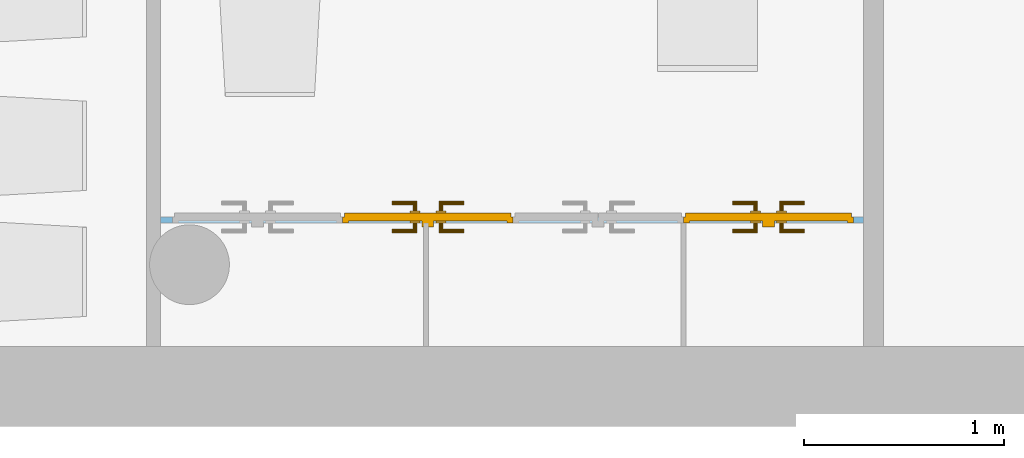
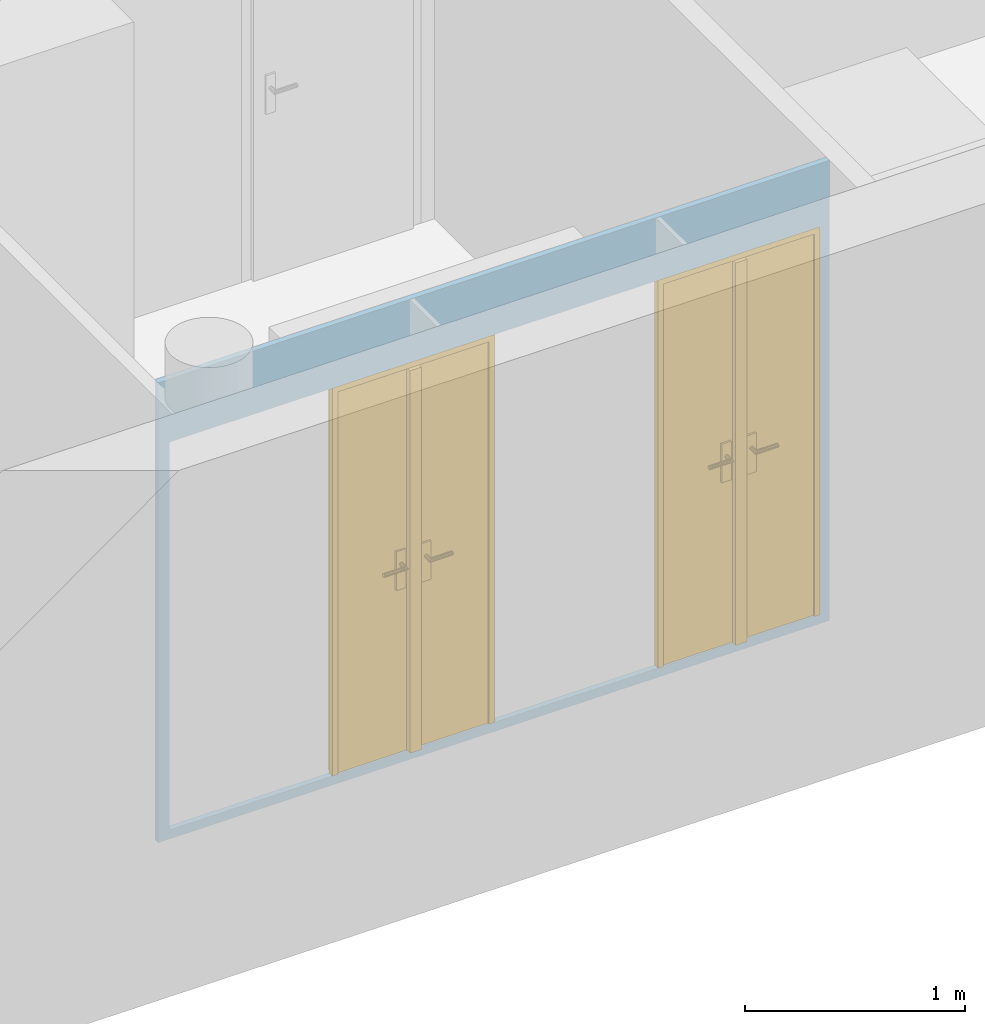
"""IFC4 building model written with IfcOpenShell, lengths in metres."""

import ifcopenshell
import ifcopenshell.guid

model = None  # the IFC model being written
_history = None  # IfcOwnerHistory: only IFC2X3 demands one
_inside = {}  # id of a spatial element -> (the spatial element, [elements in it])
_under = {}  # id of a project, library or spatial element -> (it, [spatial elements below it])
_declared = {}  # id of a project -> (the project, [libraries it declares])
_typed = {}  # id of a type object -> (the type object, [elements of that type])
_made_of = {}  # id of a material, layer set ... -> (it, [elements and type objects made of it])


def new_model(schema):
    """Start an empty IFC model of exactly this schema.

    Asked for "IFC4X3", IfcOpenShell would pick the latest addendum, in which some entities
    have other attributes; the version numbers below select the first issue.
    IFC2X3 requires an IfcOwnerHistory on every rooted entity: one is made here for all.
    """
    global model, _history
    if schema == "IFC4X3":
        model = ifcopenshell.file(schema_version=(4, 3, 0, 0))
    else:
        model = ifcopenshell.file(schema=schema)
    _inside.clear()
    _under.clear()
    _declared.clear()
    _typed.clear()
    _made_of.clear()
    _history = None
    if model.schema == "IFC2X3":
        org = make("IfcOrganization", Name="unknown")
        user = make(
            "IfcPersonAndOrganization",
            ThePerson=make("IfcPerson", FamilyName="unknown"),
            TheOrganization=org,
        )
        app = make(
            "IfcApplication",
            ApplicationDeveloper=org,
            Version="unknown",
            ApplicationFullName="unknown",
            ApplicationIdentifier="unknown",
        )
        _history = make(
            "IfcOwnerHistory",
            OwningUser=user,
            OwningApplication=app,
            ChangeAction="ADDED",
            CreationDate=0,
        )
    return model


def make(cls, **values):
    """One entity of the class cls with the attributes given. An attribute that is None is left unset."""
    return model.create_entity(
        cls, **{name: value for name, value in values.items() if value is not None}
    )


def entity(cls, *values):
    """Any entity or typed value of the class cls, its attributes in the order of the schema. None: left unset."""
    e = model.create_entity(cls)
    for i, value in enumerate(values):
        if value is not None:
            e[i] = value
    return e


def rooted(cls, **values):
    """An entity with a GlobalId (a new one), such as an element, a storey or a relation."""
    return make(cls, GlobalId=ifcopenshell.guid.new(), OwnerHistory=_history, **values)


def si_unit(unit_type, name, prefix=None):
    """IfcSIUnit, for example si_unit("LENGTHUNIT", "METRE", prefix="MILLI")."""
    return make("IfcSIUnit", UnitType=unit_type, Prefix=prefix, Name=name)


def converted_unit(unit_type, name, factor, base, dimensions=None, offset=None):
    """IfcConversionBasedUnit, such as the inch: factor (a typed value) times the base unit."""
    return make(
        "IfcConversionBasedUnit"
        if offset is None
        else "IfcConversionBasedUnitWithOffset",
        ConversionOffset=offset,
        Dimensions=None
        if dimensions is None
        else entity("IfcDimensionalExponents", *dimensions),
        UnitType=unit_type,
        Name=name,
        ConversionFactor=make(
            "IfcMeasureWithUnit", ValueComponent=factor, UnitComponent=base
        ),
    )


def derived_unit(unit_type, elements):
    """IfcDerivedUnit: a product of units, each with its exponent."""
    return make(
        "IfcDerivedUnit",
        Elements=[
            make("IfcDerivedUnitElement", Unit=unit, Exponent=power)
            for unit, power in elements
        ],
        UnitType=unit_type,
    )


def assignment(units):
    """IfcUnitAssignment: the units of a project."""
    return None if units is None else make("IfcUnitAssignment", Units=units)


def point(xyz):
    """IfcCartesianPoint."""
    return None if xyz is None else make("IfcCartesianPoint", Coordinates=xyz)


def direction(xyz):
    """IfcDirection."""
    return None if xyz is None else make("IfcDirection", DirectionRatios=xyz)


def frame(location, z_axis=None, x_axis=None):
    """IfcAxis2Placement3D, a coordinate frame: its origin and axes. An axis left out is left unset."""
    return make(
        "IfcAxis2Placement3D",
        Location=point(location),
        Axis=direction(z_axis),
        RefDirection=direction(x_axis),
    )


def frame_2d(location, x_axis=None):
    """IfcAxis2Placement2D, a coordinate frame in the plane: its origin and x axis."""
    return make(
        "IfcAxis2Placement2D", Location=point(location), RefDirection=direction(x_axis)
    )


def origin():
    """The frame at (0, 0, 0) with its axes left unset."""
    return frame((0.0, 0.0, 0.0))


def origin_with_axes():
    """The frame at (0, 0, 0) with the z axis (0, 0, 1) and the x axis (1, 0, 0) written out."""
    return frame((0.0, 0.0, 0.0), z_axis=(0.0, 0.0, 1.0), x_axis=(1.0, 0.0, 0.0))


def place(relative_to, where):
    """IfcLocalPlacement: puts the frame where relative to a parent placement (None: the world)."""
    return make(
        "IfcLocalPlacement", PlacementRelTo=relative_to, RelativePlacement=where
    )


def context(
    kind, dimensions, precision=None, world=None, true_north=None, identifier=None
):
    """IfcGeometricRepresentationContext, for example the 3D "Model" context."""
    return make(
        "IfcGeometricRepresentationContext",
        ContextIdentifier=identifier,
        ContextType=kind,
        CoordinateSpaceDimension=dimensions,
        Precision=precision,
        WorldCoordinateSystem=world,
        TrueNorth=true_north,
    )


def subcontext(parent, identifier, kind, view, scale=None):
    """IfcGeometricRepresentationSubContext, for example "Body" below "Model"."""
    return make(
        "IfcGeometricRepresentationSubContext",
        ContextIdentifier=identifier,
        ContextType=kind,
        ParentContext=parent,
        TargetScale=scale,
        TargetView=view,
    )


def project(units=None, contexts=None):
    """IfcProject with its units and contexts."""
    return rooted(
        "IfcProject",
        Name="project",
        RepresentationContexts=contexts,
        UnitsInContext=assignment(units),
    )


def spatial(cls, under=None, at=None, **own):
    """A site, building, storey or space (cls), placed at a placement, below another one or the project."""
    s = rooted(cls, ObjectPlacement=at, **own)
    if under is not None:
        _under.setdefault(under.id(), (under, []))[1].append(s)
    return s


def polyline(points):
    """IfcPolyline through the points."""
    return make("IfcPolyline", Points=[point(p) for p in points])


def profile(cls, at=None, kind="AREA", **sizes):
    """A parametric profile (cls). Its sizes go by their IFC names, for example OverallWidth=200.0."""
    return make(cls, ProfileType=kind, Position=at, **sizes)


def rectangle(**sizes):
    """IfcRectangleProfileDef."""
    return profile("IfcRectangleProfileDef", **sizes)


def outline(outer, holes=None, kind="AREA"):
    """IfcArbitraryClosedProfileDef: a profile drawn as a closed curve; with holes, ...WithVoids."""
    if holes is None:
        return make("IfcArbitraryClosedProfileDef", ProfileType=kind, OuterCurve=outer)
    return make(
        "IfcArbitraryProfileDefWithVoids",
        ProfileType=kind,
        OuterCurve=outer,
        InnerCurves=holes,
    )


def extrude(swept, where, along, depth):
    """IfcExtrudedAreaSolid: the profile swept, set in the frame where, extruded along a direction by depth."""
    return make(
        "IfcExtrudedAreaSolid",
        SweptArea=swept,
        Position=where,
        ExtrudedDirection=direction(along),
        Depth=depth,
    )


def faces_of(points, faces, orient=None, outer=None):
    """IfcFace entities. A face is a list of loops; a loop is a list of indices into points, from 0.

    orient and outer hold one flag for each loop. By default every Orientation is true, the
    first loop of a face is its IfcFaceOuterBound and the others are IfcFaceBound.
    """
    made = []
    for i, loops in enumerate(faces):
        bounds = []
        for j, loop in enumerate(loops):
            is_outer = j == 0 if outer is None else outer[i][j]
            bounds.append(
                make(
                    "IfcFaceOuterBound" if is_outer else "IfcFaceBound",
                    Bound=make("IfcPolyLoop", Polygon=[points[k] for k in loop]),
                    Orientation=True if orient is None else orient[i][j],
                )
            )
        made.append(make("IfcFace", Bounds=bounds))
    return made


def faceted_brep(points, faces, orient=None, outer=None, voids=None):
    """IfcFacetedBrep: a solid bounded by flat faces; with voids (closed shells), ...WithVoids."""
    shared = [point(p) for p in points]
    hull = make("IfcClosedShell", CfsFaces=faces_of(shared, faces, orient, outer))
    if voids is None:
        return make("IfcFacetedBrep", Outer=hull)
    return make(
        "IfcFacetedBrepWithVoids",
        Outer=hull,
        Voids=[
            make(cls, CfsFaces=faces_of(shared, fs, o, b)) for cls, fs, o, b in voids
        ],
    )


def shape(context_of_items, identifier, shape_type, items):
    """IfcShapeRepresentation: the items that make up one representation, for example the "Body"."""
    return make(
        "IfcShapeRepresentation",
        ContextOfItems=context_of_items,
        RepresentationIdentifier=identifier,
        RepresentationType=shape_type,
        Items=items,
    )


def source(mapping_origin, context_of_items, identifier, shape_type, items):
    """IfcRepresentationMap: a shape defined once, which mapped items show again and again."""
    return make(
        "IfcRepresentationMap",
        MappingOrigin=mapping_origin,
        MappedRepresentation=shape(context_of_items, identifier, shape_type, items),
    )


def transform(
    local_origin,
    x_axis=None,
    y_axis=None,
    z_axis=None,
    scale=None,
    scale2=None,
    scale3=None,
    uniform=True,
):
    """IfcCartesianTransformationOperator3D, or its non-uniform kind. x_axis, y_axis, z_axis: its Axis1, 2, 3."""
    if uniform:
        return make(
            "IfcCartesianTransformationOperator3D",
            Axis1=direction(x_axis),
            Axis2=direction(y_axis),
            LocalOrigin=point(local_origin),
            Scale=scale,
            Axis3=direction(z_axis),
        )
    return make(
        "IfcCartesianTransformationOperator3DnonUniform",
        Axis1=direction(x_axis),
        Axis2=direction(y_axis),
        LocalOrigin=point(local_origin),
        Scale=scale,
        Axis3=direction(z_axis),
        Scale2=scale2,
        Scale3=scale3,
    )


def mapped(mapping_source, mapping_target):
    """IfcMappedItem: shows the shape of a source again, moved by a transform."""
    return make(
        "IfcMappedItem", MappingSource=mapping_source, MappingTarget=mapping_target
    )


def material(Name=None, Category=None):
    """IfcMaterial."""
    return make("IfcMaterial", Name=Name, Category=Category)


def layer(
    of_material, thickness, ventilated=None, Name=None, Category=None, Priority=None
):
    """IfcMaterialLayer: one layer of a wall or slab, of a material (None: an air gap)."""
    return make(
        "IfcMaterialLayer",
        Material=of_material,
        LayerThickness=thickness,
        IsVentilated=ventilated,
        Name=Name,
        Category=Category,
        Priority=Priority,
    )


def layer_set(layers, Name=None):
    """IfcMaterialLayerSet."""
    return make("IfcMaterialLayerSet", MaterialLayers=layers, LayerSetName=Name)


def layer_usage(for_layer_set, set_direction, sense, offset, extent=None):
    """IfcMaterialLayerSetUsage: how a layer set lies in its element."""
    return make(
        "IfcMaterialLayerSetUsage",
        ForLayerSet=for_layer_set,
        LayerSetDirection=set_direction,
        DirectionSense=sense,
        OffsetFromReferenceLine=offset,
        ReferenceExtent=extent,
    )


def made_of(thing, what):
    """Note that an element or type object is made of a material, layer set ...; save() writes the relation."""
    if what is not None:
        _made_of.setdefault(what.id(), (what, []))[1].append(thing)
    return thing


def element(
    cls,
    number,
    at=None,
    inside=None,
    cuts=None,
    type_object=None,
    material=None,
    context=None,
    identifier="Body",
    shape_type=None,
    held_by="IfcProductDefinitionShape",
    body=None,
    shapes=None,
    **own,
):
    """One element of the class cls, such as IfcWall. Its Tag is "e" and its number.

    at: its placement. inside: the storey or other place that contains it. cuts: it is an
    opening in that element (IfcRelVoidsElement). A single representation is given by context,
    identifier, shape_type and body (its items); several are given by shapes. held_by: the class
    of the entity that holds the representations. save() writes the other relations.
    """
    e = rooted(cls, Tag="e%d" % number, ObjectPlacement=at, **own)
    if body is not None:
        shapes = [shape(context, identifier, shape_type, body)]
    if shapes is not None:
        e.Representation = make(held_by, Representations=shapes)
    if inside is not None:
        _inside.setdefault(inside.id(), (inside, []))[1].append(e)
    if cuts is not None:
        rooted(
            "IfcRelVoidsElement", RelatingBuildingElement=cuts, RelatedOpeningElement=e
        )
    if type_object is not None:
        _typed.setdefault(type_object.id(), (type_object, []))[1].append(e)
    return made_of(e, material)


def fill(opening, filler):
    """IfcRelFillsElement: the door or window that sits in an opening."""
    return rooted(
        "IfcRelFillsElement",
        RelatingOpeningElement=opening,
        RelatedBuildingElement=filler,
    )


def aggregate(whole, parts):
    """IfcRelAggregates: a whole, such as a stair, and the parts it consists of."""
    return rooted("IfcRelAggregates", RelatingObject=whole, RelatedObjects=parts)


def save(model, path):
    """Write the relations noted so far, then the file.

    IfcRelAggregates (storeys below a building ...), IfcRelContainedInSpatialStructure (elements
    in a storey), IfcRelDefinesByType, IfcRelAssociatesMaterial and IfcRelDeclares: one each for
    every whole, place, type object, material and project.
    """
    for whole, parts in _under.values():
        aggregate(whole, parts)
    for where, things in _inside.values():
        rooted(
            "IfcRelContainedInSpatialStructure",
            RelatedElements=things,
            RelatingStructure=where,
        )
    for kind, things in _typed.values():
        rooted("IfcRelDefinesByType", RelatedObjects=things, RelatingType=kind)
    for what, things in _made_of.values():
        rooted("IfcRelAssociatesMaterial", RelatedObjects=things, RelatingMaterial=what)
    for by, libraries in _declared.values():
        rooted("IfcRelDeclares", RelatingContext=by, RelatedDefinitions=libraries)
    model.write(path)


model = new_model("IFC4")

# Units and contexts
model_context = context("Model", 3, precision=1e-05, world=origin())
body_context = subcontext(model_context, "Body", "Model", "MODEL_VIEW")
ifc_project = project(units=[si_unit("LENGTHUNIT", "METRE"), si_unit("AREAUNIT", "SQUARE_METRE"), si_unit("VOLUMEUNIT", "CUBIC_METRE"), si_unit("MASSUNIT", "GRAM", prefix="KILO"), converted_unit("PLANEANGLEUNIT", "DEGREE", entity("IfcPlaneAngleMeasure", 0.0174532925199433), si_unit("PLANEANGLEUNIT", "RADIAN"), dimensions=[0, 0, 0, 0, 0, 0, 0]), derived_unit("THERMALTRANSMITTANCEUNIT", [(si_unit("POWERUNIT", "WATT"), 1), (si_unit("THERMODYNAMICTEMPERATUREUNIT", "KELVIN"), -1), (si_unit("LENGTHUNIT", "METRE"), -2)]), derived_unit("VOLUMETRICFLOWRATEUNIT", [(si_unit("LENGTHUNIT", "METRE"), 3), (converted_unit("TIMEUNIT", "hour", entity("IfcTimeMeasure", 3600.0), si_unit("TIMEUNIT", "SECOND"), dimensions=[0, 0, 1, 0, 0, 0, 0]), -1), (si_unit("LENGTHUNIT", "METRE"), -1)])], contexts=[model_context])

# Building, storeys
building_placement = place(None, origin())
building = spatial("IfcBuilding", under=ifc_project, at=building_placement, Name="HABITATGE PLURIFAMILIAR", CompositionType="ELEMENT")
storey_1_placement = place(building_placement, frame((0.0, 0.0, 3.35)))
storey_1 = spatial("IfcBuildingStorey", under=building, at=storey_1_placement, Name="PLANTA  ALTELL", CompositionType="ELEMENT", Elevation=3.35)
storey_2_placement = place(storey_1_placement, origin())
storey_2 = spatial("IfcBuildingStorey", under=storey_1, at=storey_2_placement, Name="NOU", CompositionType="PARTIAL")

# Wall, openings, doors
ifc_material = material()
ifc_layer = layer(ifc_material, 0.03)
ifc_layer_set = layer_set([ifc_layer])
ifc_layer_usage = layer_usage(ifc_layer_set, "AXIS2", "POSITIVE", 0.0)
wall_placement = place(storey_2_placement, frame((409.212081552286, 13.8895914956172, -0.05), z_axis=(0.0, 0.0, 1.0), x_axis=(-1.0, 0.0, 0.0)))
wall = element("IfcWall", 1, at=wall_placement, inside=storey_2, material=ifc_layer_usage, Name="Evans PA", context=body_context, shape_type="SweptSolid", body=[
    extrude(rectangle(XDim=3.51996309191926, YDim=0.03, at=frame_2d((1.75998154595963, 0.015), x_axis=(1.0, 0.0))), origin_with_axes(), (0.0, 0.0, 1.0), 2.55),
])
opening_1_placement = place(wall_placement, frame((2.60764991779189, 0.0, 0.05), z_axis=(0.0, 1.0, 0.0), x_axis=(0.0, 0.0, 1.0)))
element("IfcOpeningElement", 2, at=opening_1_placement, cuts=wall, Name="Vano de puerta PA", ObjectType="Opening", context=body_context, shape_type="SweptSolid", body=[
    extrude(outline(polyline([(2.15, 0.852499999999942), (2.15, 0.0), (0.0, 0.0), (0.0, 0.852499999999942), (2.15, 0.852499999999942)])), origin_with_axes(), (0.0, 0.0, 1.0), 0.03),
])
opening_2_placement = place(wall_placement, frame((0.900149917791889, 0.0, 0.05), z_axis=(0.0, 1.0, 0.0), x_axis=(0.0, 0.0, 1.0)))
element("IfcOpeningElement", 3, at=opening_2_placement, cuts=wall, Name="Vano de puerta PA", ObjectType="Opening", context=body_context, shape_type="SweptSolid", body=[
    extrude(outline(polyline([(2.15, 0.854999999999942), (2.15, 0.0), (0.0, 0.0), (0.0, 0.854999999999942), (2.15, 0.854999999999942)])), origin_with_axes(), (0.0, 0.0, 1.0), 0.03),
])
opening_3_placement = place(wall_placement, frame((1.75514991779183, 0.0, 0.05), z_axis=(0.0, 1.0, 0.0), x_axis=(0.0, 0.0, 1.0)))
opening_3 = element("IfcOpeningElement", 4, at=opening_3_placement, cuts=wall, Name="Vano de puerta PA", ObjectType="Opening", context=body_context, shape_type="SweptSolid", body=[
    extrude(outline(polyline([(2.15, 0.8525), (2.15, 0.0), (0.0, 0.0), (0.0, 0.8525), (2.15, 0.8525)])), origin_with_axes(), (0.0, 0.0, 1.0), 0.03),
])
opening_4_placement = place(wall_placement, frame((0.900149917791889, 0.03, 0.05), z_axis=(0.0, -1.0, 0.0), x_axis=(0.0, 0.0, 1.0)))
opening_4 = element("IfcOpeningElement", 5, at=opening_4_placement, cuts=wall, Name="Vano de puerta PA", ObjectType="Opening", context=body_context, shape_type="SweptSolid", body=[
    extrude(outline(polyline([(2.15, 0.85), (2.15, 0.0), (0.0, 0.0), (0.0, 0.85), (2.15, 0.85)])), origin_with_axes(), (0.0, 0.0, 1.0), 0.03),
])
shared_shape_1 = source(origin_with_axes(), body_context, "Body", "Brep", [
    faceted_brep([(0.0, 0.03, 2.15), (0.0, 0.03, 0.0), (0.03, 0.03, 0.0), (0.03, 0.03, 2.15), (0.0, 0.0, 0.0), (0.0, 0.0, 2.15), (0.03, 0.0, 2.15), (0.03, 0.0, 0.0)], [[[0, 1, 2, 3]], [[4, 5, 6, 7]], [[1, 0, 5, 4]], [[2, 1, 4, 7]], [[3, 2, 7, 6]], [[0, 3, 6, 5]]], orient=[[False], [False], [False], [False], [False], [False]]),
    faceted_brep([(0.8225, 0.03, 2.15), (0.8225, 0.03, 0.0), (0.8525, 0.03, 0.0), (0.8525, 0.03, 2.15), (0.8225, 0.0, 0.0), (0.8225, 0.0, 2.15), (0.8525, 0.0, 2.15), (0.8525, 0.0, 0.0)], [[[0, 1, 2, 3]], [[4, 5, 6, 7]], [[1, 0, 5, 4]], [[2, 1, 4, 7]], [[3, 2, 7, 6]], [[0, 3, 6, 5]]], orient=[[False], [False], [False], [False], [False], [False]]),
    faceted_brep([(0.03, 0.03, 2.15), (0.03, 0.03, 2.12), (0.8225, 0.03, 2.12), (0.8225, 0.03, 2.15), (0.03, 0.0, 2.12), (0.03, 0.0, 2.15), (0.8225, 0.0, 2.15), (0.8225, 0.0, 2.12)], [[[0, 1, 2, 3]], [[4, 5, 6, 7]], [[1, 0, 5, 4]], [[2, 1, 4, 7]], [[3, 2, 7, 6]], [[0, 3, 6, 5]]], orient=[[False], [False], [False], [False], [False], [False]]),
    faceted_brep([(0.01, 0.05, 2.14), (0.01, 0.05, 0.0), (0.42575, 0.05, 0.0), (0.42575, 0.05, 2.14), (0.01, 0.01, 0.0), (0.01, 0.01, 2.14), (0.42575, 0.01, 2.14), (0.42575, 0.01, 0.0)], [[[0, 1, 2, 3]], [[4, 5, 6, 7]], [[1, 0, 5, 4]], [[2, 1, 4, 7]], [[3, 2, 7, 6]], [[0, 3, 6, 5]]], orient=[[False], [False], [False], [False], [False], [False]]),
    faceted_brep([(0.39575, 0.01, 2.12), (0.39575, 0.01, 0.0), (0.45575, 0.01, 0.0), (0.45575, 0.01, 2.12), (0.39575, -0.02, 0.0), (0.39575, -0.02, 2.12), (0.45575, -0.02, 2.12), (0.45575, -0.02, 0.0)], [[[0, 1, 2, 3]], [[4, 5, 6, 7]], [[1, 0, 5, 4]], [[2, 1, 4, 7]], [[3, 2, 7, 6]], [[0, 3, 6, 5]]], orient=[[False], [False], [False], [False], [False], [False]]),
    faceted_brep([(0.33575, 0.01, 1.125), (0.33575, 0.01, 0.91), (0.38575, 0.01, 0.91), (0.38575, 0.01, 1.125), (0.33575, 0.0, 0.91), (0.33575, 0.0, 1.125), (0.38575, 0.0, 1.125), (0.38575, 0.0, 0.91)], [[[0, 1, 2, 3]], [[4, 5, 6, 7]], [[1, 0, 5, 4]], [[2, 1, 4, 7]], [[3, 2, 7, 6]], [[0, 3, 6, 5]]], orient=[[False], [False], [False], [False], [False], [False]]),
    faceted_brep([(0.36075, 0.0, 1.06), (0.35575, 0.0, 1.05866025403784), (0.352089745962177, 0.0, 1.055), (0.35075, 0.0, 1.05), (0.352089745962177, 0.0, 1.045), (0.35575, 0.0, 1.04133974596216), (0.36075, 0.0, 1.04), (0.36575, 0.0, 1.04133974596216), (0.369410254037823, 0.0, 1.045), (0.37075, 0.0, 1.05), (0.369410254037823, 0.0, 1.055), (0.36575, 0.0, 1.05866025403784), (0.36575, -0.045, 1.05866025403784), (0.36075, -0.04, 1.06), (0.369410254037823, -0.0486602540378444, 1.055), (0.37075, -0.05, 1.05), (0.369410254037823, -0.0486602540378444, 1.045), (0.36575, -0.045, 1.04133974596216), (0.36075, -0.04, 1.04), (0.35575, -0.035, 1.04133974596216), (0.352089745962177, -0.0313397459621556, 1.045), (0.35075, -0.03, 1.05), (0.352089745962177, -0.0313397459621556, 1.055), (0.35575, -0.035, 1.05866025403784), (0.24575, -0.04, 1.06), (0.24575, -0.045, 1.05866025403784), (0.24575, -0.0486602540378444, 1.055), (0.24575, -0.05, 1.05), (0.24575, -0.0486602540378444, 1.045), (0.24575, -0.045, 1.04133974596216), (0.24575, -0.04, 1.04), (0.24575, -0.035, 1.04133974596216), (0.24575, -0.0313397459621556, 1.045), (0.24575, -0.03, 1.05), (0.24575, -0.0313397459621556, 1.055), (0.24575, -0.035, 1.05866025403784)], [[[0, 1, 2, 3, 4, 5, 6, 7, 8, 9, 10, 11]], [[0, 11, 12, 13]], [[11, 10, 14, 12]], [[10, 9, 15, 14]], [[9, 8, 16, 15]], [[8, 7, 17, 16]], [[7, 6, 18, 17]], [[6, 5, 19, 18]], [[5, 4, 20, 19]], [[4, 3, 21, 20]], [[3, 2, 22, 21]], [[2, 1, 23, 22]], [[1, 0, 13, 23]], [[24, 25, 26, 27, 28, 29, 30, 31, 32, 33, 34, 35]], [[13, 12, 25, 24]], [[12, 14, 26, 25]], [[14, 15, 27, 26]], [[15, 16, 28, 27]], [[16, 17, 29, 28]], [[17, 18, 30, 29]], [[18, 19, 31, 30]], [[19, 20, 32, 31]], [[20, 21, 33, 32]], [[21, 22, 34, 33]], [[22, 23, 35, 34]], [[23, 13, 24, 35]]], orient=[[False], [False], [False], [False], [False], [False], [False], [False], [False], [False], [False], [False], [False], [False], [False], [False], [False], [False], [False], [False], [False], [False], [False], [False], [False], [False]]),
    faceted_brep([(0.33575, 0.05, 1.125), (0.38575, 0.05, 1.125), (0.38575, 0.05, 0.91), (0.33575, 0.05, 0.91), (0.33575, 0.06, 0.91), (0.38575, 0.06, 0.91), (0.38575, 0.06, 1.125), (0.33575, 0.06, 1.125)], [[[0, 1, 2, 3]], [[4, 5, 6, 7]], [[3, 4, 7, 0]], [[2, 5, 4, 3]], [[1, 6, 5, 2]], [[0, 7, 6, 1]]], orient=[[False], [False], [False], [False], [False], [False]]),
    faceted_brep([(0.36075, 0.06, 1.06), (0.36575, 0.06, 1.05866025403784), (0.369410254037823, 0.06, 1.055), (0.37075, 0.06, 1.05), (0.369410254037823, 0.06, 1.045), (0.36575, 0.06, 1.04133974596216), (0.36075, 0.06, 1.04), (0.35575, 0.06, 1.04133974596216), (0.352089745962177, 0.06, 1.045), (0.35075, 0.06, 1.05), (0.352089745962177, 0.06, 1.055), (0.35575, 0.06, 1.05866025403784), (0.36075, 0.1, 1.06), (0.36575, 0.105, 1.05866025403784), (0.369410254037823, 0.108660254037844, 1.055), (0.37075, 0.11, 1.05), (0.369410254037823, 0.108660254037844, 1.045), (0.36575, 0.105, 1.04133974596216), (0.36075, 0.1, 1.04), (0.35575, 0.095, 1.04133974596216), (0.352089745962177, 0.0913397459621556, 1.045), (0.35075, 0.09, 1.05), (0.352089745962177, 0.0913397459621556, 1.055), (0.35575, 0.095, 1.05866025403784), (0.24575, 0.1, 1.06), (0.24575, 0.095, 1.05866025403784), (0.24575, 0.0913397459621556, 1.055), (0.24575, 0.09, 1.05), (0.24575, 0.0913397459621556, 1.045), (0.24575, 0.095, 1.04133974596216), (0.24575, 0.1, 1.04), (0.24575, 0.105, 1.04133974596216), (0.24575, 0.108660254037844, 1.045), (0.24575, 0.11, 1.05), (0.24575, 0.108660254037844, 1.055), (0.24575, 0.105, 1.05866025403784)], [[[0, 1, 2, 3, 4, 5, 6, 7, 8, 9, 10, 11]], [[0, 12, 13, 1]], [[1, 13, 14, 2]], [[2, 14, 15, 3]], [[3, 15, 16, 4]], [[4, 16, 17, 5]], [[5, 17, 18, 6]], [[6, 18, 19, 7]], [[7, 19, 20, 8]], [[8, 20, 21, 9]], [[9, 21, 22, 10]], [[10, 22, 23, 11]], [[11, 23, 12, 0]], [[24, 25, 26, 27, 28, 29, 30, 31, 32, 33, 34, 35]], [[12, 24, 35, 13]], [[13, 35, 34, 14]], [[14, 34, 33, 15]], [[15, 33, 32, 16]], [[16, 32, 31, 17]], [[17, 31, 30, 18]], [[18, 30, 29, 19]], [[19, 29, 28, 20]], [[20, 28, 27, 21]], [[21, 27, 26, 22]], [[22, 26, 25, 23]], [[23, 25, 24, 12]]], orient=[[False], [False], [False], [False], [False], [False], [False], [False], [False], [False], [False], [False], [False], [False], [False], [False], [False], [False], [False], [False], [False], [False], [False], [False], [False], [False]]),
    faceted_brep([(0.42675, 0.05, 2.14), (0.42675, 0.05, 0.0), (0.8425, 0.05, 0.0), (0.8425, 0.05, 2.14), (0.42675, 0.01, 0.0), (0.42675, 0.01, 2.14), (0.8425, 0.01, 2.14), (0.8425, 0.01, 0.0)], [[[0, 1, 2, 3]], [[4, 5, 6, 7]], [[1, 0, 5, 4]], [[2, 1, 4, 7]], [[3, 2, 7, 6]], [[0, 3, 6, 5]]], orient=[[False], [False], [False], [False], [False], [False]]),
    faceted_brep([(0.46675, 0.01, 1.125), (0.46675, 0.01, 0.91), (0.51675, 0.01, 0.91), (0.51675, 0.01, 1.125), (0.46675, 0.0, 0.91), (0.46675, 0.0, 1.125), (0.51675, 0.0, 1.125), (0.51675, 0.0, 0.91)], [[[0, 1, 2, 3]], [[4, 5, 6, 7]], [[1, 0, 5, 4]], [[2, 1, 4, 7]], [[3, 2, 7, 6]], [[0, 3, 6, 5]]], orient=[[False], [False], [False], [False], [False], [False]]),
    faceted_brep([(0.49175, 0.0, 1.06), (0.48675, 0.0, 1.05866025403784), (0.483089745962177, 0.0, 1.055), (0.48175, 0.0, 1.05), (0.483089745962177, 0.0, 1.045), (0.48675, 0.0, 1.04133974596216), (0.49175, 0.0, 1.04), (0.49675, 0.0, 1.04133974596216), (0.500410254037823, 0.0, 1.045), (0.50175, 0.0, 1.05), (0.500410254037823, 0.0, 1.055), (0.49675, 0.0, 1.05866025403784), (0.49175, -0.04, 1.06), (0.48675, -0.045, 1.05866025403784), (0.483089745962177, -0.0486602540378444, 1.055), (0.48175, -0.05, 1.05), (0.483089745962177, -0.0486602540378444, 1.045), (0.48675, -0.045, 1.04133974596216), (0.49175, -0.04, 1.04), (0.49675, -0.035, 1.04133974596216), (0.500410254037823, -0.0313397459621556, 1.045), (0.50175, -0.03, 1.05), (0.500410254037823, -0.0313397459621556, 1.055), (0.49675, -0.035, 1.05866025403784), (0.60675, -0.04, 1.06), (0.60675, -0.035, 1.05866025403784), (0.60675, -0.0313397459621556, 1.055), (0.60675, -0.03, 1.05), (0.60675, -0.0313397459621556, 1.045), (0.60675, -0.035, 1.04133974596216), (0.60675, -0.04, 1.04), (0.60675, -0.045, 1.04133974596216), (0.60675, -0.0486602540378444, 1.045), (0.60675, -0.05, 1.05), (0.60675, -0.0486602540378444, 1.055), (0.60675, -0.045, 1.05866025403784)], [[[0, 1, 2, 3, 4, 5, 6, 7, 8, 9, 10, 11]], [[0, 12, 13, 1]], [[1, 13, 14, 2]], [[2, 14, 15, 3]], [[3, 15, 16, 4]], [[4, 16, 17, 5]], [[5, 17, 18, 6]], [[6, 18, 19, 7]], [[7, 19, 20, 8]], [[8, 20, 21, 9]], [[9, 21, 22, 10]], [[10, 22, 23, 11]], [[11, 23, 12, 0]], [[24, 25, 26, 27, 28, 29, 30, 31, 32, 33, 34, 35]], [[12, 24, 35, 13]], [[13, 35, 34, 14]], [[14, 34, 33, 15]], [[15, 33, 32, 16]], [[16, 32, 31, 17]], [[17, 31, 30, 18]], [[18, 30, 29, 19]], [[19, 29, 28, 20]], [[20, 28, 27, 21]], [[21, 27, 26, 22]], [[22, 26, 25, 23]], [[23, 25, 24, 12]]], orient=[[False], [False], [False], [False], [False], [False], [False], [False], [False], [False], [False], [False], [False], [False], [False], [False], [False], [False], [False], [False], [False], [False], [False], [False], [False], [False]]),
    faceted_brep([(0.46675, 0.05, 1.125), (0.51675, 0.05, 1.125), (0.51675, 0.05, 0.91), (0.46675, 0.05, 0.91), (0.46675, 0.06, 0.91), (0.51675, 0.06, 0.91), (0.51675, 0.06, 1.125), (0.46675, 0.06, 1.125)], [[[0, 1, 2, 3]], [[4, 5, 6, 7]], [[3, 4, 7, 0]], [[2, 5, 4, 3]], [[1, 6, 5, 2]], [[0, 7, 6, 1]]], orient=[[False], [False], [False], [False], [False], [False]]),
    faceted_brep([(0.49175, 0.06, 1.06), (0.49675, 0.06, 1.05866025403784), (0.500410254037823, 0.06, 1.055), (0.50175, 0.06, 1.05), (0.500410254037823, 0.06, 1.045), (0.49675, 0.06, 1.04133974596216), (0.49175, 0.06, 1.04), (0.48675, 0.06, 1.04133974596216), (0.483089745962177, 0.06, 1.045), (0.48175, 0.06, 1.05), (0.483089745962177, 0.06, 1.055), (0.48675, 0.06, 1.05866025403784), (0.48675, 0.105, 1.05866025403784), (0.49175, 0.1, 1.06), (0.483089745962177, 0.108660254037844, 1.055), (0.48175, 0.11, 1.05), (0.483089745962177, 0.108660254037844, 1.045), (0.48675, 0.105, 1.04133974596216), (0.49175, 0.1, 1.04), (0.49675, 0.095, 1.04133974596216), (0.500410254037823, 0.0913397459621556, 1.045), (0.50175, 0.09, 1.05), (0.500410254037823, 0.0913397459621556, 1.055), (0.49675, 0.095, 1.05866025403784), (0.60675, 0.1, 1.06), (0.60675, 0.105, 1.05866025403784), (0.60675, 0.108660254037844, 1.055), (0.60675, 0.11, 1.05), (0.60675, 0.108660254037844, 1.045), (0.60675, 0.105, 1.04133974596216), (0.60675, 0.1, 1.04), (0.60675, 0.095, 1.04133974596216), (0.60675, 0.0913397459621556, 1.045), (0.60675, 0.09, 1.05), (0.60675, 0.0913397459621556, 1.055), (0.60675, 0.095, 1.05866025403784)], [[[0, 1, 2, 3, 4, 5, 6, 7, 8, 9, 10, 11]], [[0, 11, 12, 13]], [[11, 10, 14, 12]], [[10, 9, 15, 14]], [[9, 8, 16, 15]], [[8, 7, 17, 16]], [[7, 6, 18, 17]], [[6, 5, 19, 18]], [[5, 4, 20, 19]], [[4, 3, 21, 20]], [[3, 2, 22, 21]], [[2, 1, 23, 22]], [[1, 0, 13, 23]], [[24, 25, 26, 27, 28, 29, 30, 31, 32, 33, 34, 35]], [[13, 12, 25, 24]], [[12, 14, 26, 25]], [[14, 15, 27, 26]], [[15, 16, 28, 27]], [[16, 17, 29, 28]], [[17, 18, 30, 29]], [[18, 19, 31, 30]], [[19, 20, 32, 31]], [[20, 21, 33, 32]], [[21, 22, 34, 33]], [[22, 23, 35, 34]], [[23, 13, 24, 35]]], orient=[[False], [False], [False], [False], [False], [False], [False], [False], [False], [False], [False], [False], [False], [False], [False], [False], [False], [False], [False], [False], [False], [False], [False], [False], [False], [False]]),
])
door_1_placement = place(opening_3_placement, frame((0.0, 0.8525, 0.03), z_axis=(1.0, 0.0, 0.0), x_axis=(0.0, -1.0, 0.0)))
door_1 = element("IfcDoor", 6, at=door_1_placement, inside=storey_2, Name="Porta PA", OperationType="USERDEFINED", OverallHeight=2.15, OverallWidth=0.8525, PredefinedType="DOOR", context=body_context, shape_type="MappedRepresentation", body=[
    mapped(shared_shape_1, transform((0.0, 0.0, 0.0), x_axis=(1.0, 0.0, 0.0), y_axis=(0.0, 1.0, 0.0), z_axis=(0.0, 0.0, 1.0), scale=1.0)),
])
fill(opening_3, door_1)
shared_shape_2 = source(origin_with_axes(), body_context, "Body", "Brep", [
    faceted_brep([(0.85, 0.03, 2.15), (0.82, 0.03, 2.15), (0.82, 0.03, 0.0), (0.85, 0.03, 0.0), (0.85, 0.0, 0.0), (0.82, 0.0, 0.0), (0.82, 0.0, 2.15), (0.85, 0.0, 2.15)], [[[0, 1, 2, 3]], [[4, 5, 6, 7]], [[3, 4, 7, 0]], [[2, 5, 4, 3]], [[1, 6, 5, 2]], [[0, 7, 6, 1]]], orient=[[False], [False], [False], [False], [False], [False]]),
    faceted_brep([(0.03, 0.03, 2.15), (0.0, 0.03, 2.15), (0.0, 0.03, 0.0), (0.03, 0.03, 0.0), (0.03, 0.0, 0.0), (0.0, 0.0, 0.0), (0.0, 0.0, 2.15), (0.03, 0.0, 2.15)], [[[0, 1, 2, 3]], [[4, 5, 6, 7]], [[3, 4, 7, 0]], [[2, 5, 4, 3]], [[1, 6, 5, 2]], [[0, 7, 6, 1]]], orient=[[False], [False], [False], [False], [False], [False]]),
    faceted_brep([(0.82, 0.03, 2.15), (0.03, 0.03, 2.15), (0.03, 0.03, 2.12), (0.82, 0.03, 2.12), (0.82, 0.0, 2.12), (0.03, 0.0, 2.12), (0.03, 0.0, 2.15), (0.82, 0.0, 2.15)], [[[0, 1, 2, 3]], [[4, 5, 6, 7]], [[3, 4, 7, 0]], [[2, 5, 4, 3]], [[1, 6, 5, 2]], [[0, 7, 6, 1]]], orient=[[False], [False], [False], [False], [False], [False]]),
    faceted_brep([(0.84, 0.05, 2.14), (0.4255, 0.05, 2.14), (0.4255, 0.05, 0.0), (0.84, 0.05, 0.0), (0.84, 0.01, 0.0), (0.4255, 0.01, 0.0), (0.4255, 0.01, 2.14), (0.84, 0.01, 2.14)], [[[0, 1, 2, 3]], [[4, 5, 6, 7]], [[3, 4, 7, 0]], [[2, 5, 4, 3]], [[1, 6, 5, 2]], [[0, 7, 6, 1]]], orient=[[False], [False], [False], [False], [False], [False]]),
    faceted_brep([(0.4555, 0.01, 2.12), (0.3955, 0.01, 2.12), (0.3955, 0.01, 0.0), (0.4555, 0.01, 0.0), (0.4555, -0.02, 0.0), (0.3955, -0.02, 0.0), (0.3955, -0.02, 2.12), (0.4555, -0.02, 2.12)], [[[0, 1, 2, 3]], [[4, 5, 6, 7]], [[3, 4, 7, 0]], [[2, 5, 4, 3]], [[1, 6, 5, 2]], [[0, 7, 6, 1]]], orient=[[False], [False], [False], [False], [False], [False]]),
    faceted_brep([(0.5155, 0.01, 1.125), (0.4655, 0.01, 1.125), (0.4655, 0.01, 0.91), (0.5155, 0.01, 0.91), (0.5155, 0.0, 0.91), (0.4655, 0.0, 0.91), (0.4655, 0.0, 1.125), (0.5155, 0.0, 1.125)], [[[0, 1, 2, 3]], [[4, 5, 6, 7]], [[3, 4, 7, 0]], [[2, 5, 4, 3]], [[1, 6, 5, 2]], [[0, 7, 6, 1]]], orient=[[False], [False], [False], [False], [False], [False]]),
    faceted_brep([(0.4905, 0.0, 1.06), (0.4855, 0.0, 1.05866025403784), (0.481839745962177, 0.0, 1.055), (0.4805, 0.0, 1.05), (0.481839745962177, 0.0, 1.045), (0.4855, 0.0, 1.04133974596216), (0.4905, 0.0, 1.04), (0.4955, 0.0, 1.04133974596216), (0.499160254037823, 0.0, 1.045), (0.5005, 0.0, 1.05), (0.499160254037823, 0.0, 1.055), (0.4955, 0.0, 1.05866025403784), (0.4905, -0.04, 1.06), (0.4855, -0.045, 1.05866025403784), (0.481839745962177, -0.0486602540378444, 1.055), (0.4805, -0.05, 1.05), (0.481839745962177, -0.0486602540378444, 1.045), (0.4855, -0.045, 1.04133974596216), (0.4905, -0.04, 1.04), (0.4955, -0.035, 1.04133974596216), (0.499160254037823, -0.0313397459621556, 1.045), (0.5005, -0.03, 1.05), (0.499160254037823, -0.0313397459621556, 1.055), (0.4955, -0.035, 1.05866025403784), (0.6055, -0.04, 1.06), (0.6055, -0.035, 1.05866025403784), (0.6055, -0.0313397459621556, 1.055), (0.6055, -0.03, 1.05), (0.6055, -0.0313397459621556, 1.045), (0.6055, -0.035, 1.04133974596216), (0.6055, -0.04, 1.04), (0.6055, -0.045, 1.04133974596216), (0.6055, -0.0486602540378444, 1.045), (0.6055, -0.05, 1.05), (0.6055, -0.0486602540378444, 1.055), (0.6055, -0.045, 1.05866025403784)], [[[0, 1, 2, 3, 4, 5, 6, 7, 8, 9, 10, 11]], [[0, 12, 13, 1]], [[1, 13, 14, 2]], [[2, 14, 15, 3]], [[3, 15, 16, 4]], [[4, 16, 17, 5]], [[5, 17, 18, 6]], [[6, 18, 19, 7]], [[7, 19, 20, 8]], [[8, 20, 21, 9]], [[9, 21, 22, 10]], [[10, 22, 23, 11]], [[11, 23, 12, 0]], [[24, 25, 26, 27, 28, 29, 30, 31, 32, 33, 34, 35]], [[12, 24, 35, 13]], [[13, 35, 34, 14]], [[14, 34, 33, 15]], [[15, 33, 32, 16]], [[16, 32, 31, 17]], [[17, 31, 30, 18]], [[18, 30, 29, 19]], [[19, 29, 28, 20]], [[20, 28, 27, 21]], [[21, 27, 26, 22]], [[22, 26, 25, 23]], [[23, 25, 24, 12]]], orient=[[False], [False], [False], [False], [False], [False], [False], [False], [False], [False], [False], [False], [False], [False], [False], [False], [False], [False], [False], [False], [False], [False], [False], [False], [False], [False]]),
    faceted_brep([(0.5155, 0.05, 1.125), (0.5155, 0.05, 0.91), (0.4655, 0.05, 0.91), (0.4655, 0.05, 1.125), (0.5155, 0.06, 0.91), (0.5155, 0.06, 1.125), (0.4655, 0.06, 1.125), (0.4655, 0.06, 0.91)], [[[0, 1, 2, 3]], [[4, 5, 6, 7]], [[1, 0, 5, 4]], [[2, 1, 4, 7]], [[3, 2, 7, 6]], [[0, 3, 6, 5]]], orient=[[False], [False], [False], [False], [False], [False]]),
    faceted_brep([(0.4905, 0.06, 1.06), (0.4955, 0.06, 1.05866025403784), (0.499160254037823, 0.06, 1.055), (0.5005, 0.06, 1.05), (0.499160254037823, 0.06, 1.045), (0.4955, 0.06, 1.04133974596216), (0.4905, 0.06, 1.04), (0.4855, 0.06, 1.04133974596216), (0.481839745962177, 0.06, 1.045), (0.4805, 0.06, 1.05), (0.481839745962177, 0.06, 1.055), (0.4855, 0.06, 1.05866025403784), (0.4855, 0.105, 1.05866025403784), (0.4905, 0.1, 1.06), (0.481839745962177, 0.108660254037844, 1.055), (0.4805, 0.11, 1.05), (0.481839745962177, 0.108660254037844, 1.045), (0.4855, 0.105, 1.04133974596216), (0.4905, 0.1, 1.04), (0.4955, 0.095, 1.04133974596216), (0.499160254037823, 0.0913397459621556, 1.045), (0.5005, 0.09, 1.05), (0.499160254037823, 0.0913397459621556, 1.055), (0.4955, 0.095, 1.05866025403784), (0.6055, 0.1, 1.06), (0.6055, 0.105, 1.05866025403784), (0.6055, 0.108660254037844, 1.055), (0.6055, 0.11, 1.05), (0.6055, 0.108660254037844, 1.045), (0.6055, 0.105, 1.04133974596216), (0.6055, 0.1, 1.04), (0.6055, 0.095, 1.04133974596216), (0.6055, 0.0913397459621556, 1.045), (0.6055, 0.09, 1.05), (0.6055, 0.0913397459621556, 1.055), (0.6055, 0.095, 1.05866025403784)], [[[0, 1, 2, 3, 4, 5, 6, 7, 8, 9, 10, 11]], [[0, 11, 12, 13]], [[11, 10, 14, 12]], [[10, 9, 15, 14]], [[9, 8, 16, 15]], [[8, 7, 17, 16]], [[7, 6, 18, 17]], [[6, 5, 19, 18]], [[5, 4, 20, 19]], [[4, 3, 21, 20]], [[3, 2, 22, 21]], [[2, 1, 23, 22]], [[1, 0, 13, 23]], [[24, 25, 26, 27, 28, 29, 30, 31, 32, 33, 34, 35]], [[13, 12, 25, 24]], [[12, 14, 26, 25]], [[14, 15, 27, 26]], [[15, 16, 28, 27]], [[16, 17, 29, 28]], [[17, 18, 30, 29]], [[18, 19, 31, 30]], [[19, 20, 32, 31]], [[20, 21, 33, 32]], [[21, 22, 34, 33]], [[22, 23, 35, 34]], [[23, 13, 24, 35]]], orient=[[False], [False], [False], [False], [False], [False], [False], [False], [False], [False], [False], [False], [False], [False], [False], [False], [False], [False], [False], [False], [False], [False], [False], [False], [False], [False]]),
    faceted_brep([(0.4245, 0.05, 2.14), (0.01, 0.05, 2.14), (0.01, 0.05, 0.0), (0.4245, 0.05, 0.0), (0.4245, 0.01, 0.0), (0.01, 0.01, 0.0), (0.01, 0.01, 2.14), (0.4245, 0.01, 2.14)], [[[0, 1, 2, 3]], [[4, 5, 6, 7]], [[3, 4, 7, 0]], [[2, 5, 4, 3]], [[1, 6, 5, 2]], [[0, 7, 6, 1]]], orient=[[False], [False], [False], [False], [False], [False]]),
    faceted_brep([(0.3845, 0.01, 1.125), (0.3345, 0.01, 1.125), (0.3345, 0.01, 0.91), (0.3845, 0.01, 0.91), (0.3845, 0.0, 0.91), (0.3345, 0.0, 0.91), (0.3345, 0.0, 1.125), (0.3845, 0.0, 1.125)], [[[0, 1, 2, 3]], [[4, 5, 6, 7]], [[3, 4, 7, 0]], [[2, 5, 4, 3]], [[1, 6, 5, 2]], [[0, 7, 6, 1]]], orient=[[False], [False], [False], [False], [False], [False]]),
    faceted_brep([(0.3595, 0.0, 1.06), (0.3545, 0.0, 1.05866025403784), (0.350839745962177, 0.0, 1.055), (0.3495, 0.0, 1.05), (0.350839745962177, 0.0, 1.045), (0.3545, 0.0, 1.04133974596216), (0.3595, 0.0, 1.04), (0.3645, 0.0, 1.04133974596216), (0.368160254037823, 0.0, 1.045), (0.3695, 0.0, 1.05), (0.368160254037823, 0.0, 1.055), (0.3645, 0.0, 1.05866025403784), (0.3645, -0.045, 1.05866025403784), (0.3595, -0.04, 1.06), (0.368160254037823, -0.0486602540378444, 1.055), (0.3695, -0.05, 1.05), (0.368160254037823, -0.0486602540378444, 1.045), (0.3645, -0.045, 1.04133974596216), (0.3595, -0.04, 1.04), (0.3545, -0.035, 1.04133974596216), (0.350839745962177, -0.0313397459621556, 1.045), (0.3495, -0.03, 1.05), (0.350839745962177, -0.0313397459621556, 1.055), (0.3545, -0.035, 1.05866025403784), (0.2445, -0.04, 1.06), (0.2445, -0.045, 1.05866025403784), (0.2445, -0.0486602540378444, 1.055), (0.2445, -0.05, 1.05), (0.2445, -0.0486602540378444, 1.045), (0.2445, -0.045, 1.04133974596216), (0.2445, -0.04, 1.04), (0.2445, -0.035, 1.04133974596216), (0.2445, -0.0313397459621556, 1.045), (0.2445, -0.03, 1.05), (0.2445, -0.0313397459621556, 1.055), (0.2445, -0.035, 1.05866025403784)], [[[0, 1, 2, 3, 4, 5, 6, 7, 8, 9, 10, 11]], [[0, 11, 12, 13]], [[11, 10, 14, 12]], [[10, 9, 15, 14]], [[9, 8, 16, 15]], [[8, 7, 17, 16]], [[7, 6, 18, 17]], [[6, 5, 19, 18]], [[5, 4, 20, 19]], [[4, 3, 21, 20]], [[3, 2, 22, 21]], [[2, 1, 23, 22]], [[1, 0, 13, 23]], [[24, 25, 26, 27, 28, 29, 30, 31, 32, 33, 34, 35]], [[13, 12, 25, 24]], [[12, 14, 26, 25]], [[14, 15, 27, 26]], [[15, 16, 28, 27]], [[16, 17, 29, 28]], [[17, 18, 30, 29]], [[18, 19, 31, 30]], [[19, 20, 32, 31]], [[20, 21, 33, 32]], [[21, 22, 34, 33]], [[22, 23, 35, 34]], [[23, 13, 24, 35]]], orient=[[False], [False], [False], [False], [False], [False], [False], [False], [False], [False], [False], [False], [False], [False], [False], [False], [False], [False], [False], [False], [False], [False], [False], [False], [False], [False]]),
    faceted_brep([(0.3845, 0.05, 1.125), (0.3845, 0.05, 0.91), (0.3345, 0.05, 0.91), (0.3345, 0.05, 1.125), (0.3845, 0.06, 0.91), (0.3845, 0.06, 1.125), (0.3345, 0.06, 1.125), (0.3345, 0.06, 0.91)], [[[0, 1, 2, 3]], [[4, 5, 6, 7]], [[1, 0, 5, 4]], [[2, 1, 4, 7]], [[3, 2, 7, 6]], [[0, 3, 6, 5]]], orient=[[False], [False], [False], [False], [False], [False]]),
    faceted_brep([(0.3595, 0.06, 1.06), (0.3645, 0.06, 1.05866025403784), (0.368160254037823, 0.06, 1.055), (0.3695, 0.06, 1.05), (0.368160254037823, 0.06, 1.045), (0.3645, 0.06, 1.04133974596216), (0.3595, 0.06, 1.04), (0.3545, 0.06, 1.04133974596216), (0.350839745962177, 0.06, 1.045), (0.3495, 0.06, 1.05), (0.350839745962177, 0.06, 1.055), (0.3545, 0.06, 1.05866025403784), (0.3595, 0.1, 1.06), (0.3645, 0.105, 1.05866025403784), (0.368160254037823, 0.108660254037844, 1.055), (0.3695, 0.11, 1.05), (0.368160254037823, 0.108660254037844, 1.045), (0.3645, 0.105, 1.04133974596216), (0.3595, 0.1, 1.04), (0.3545, 0.095, 1.04133974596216), (0.350839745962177, 0.0913397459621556, 1.045), (0.3495, 0.09, 1.05), (0.350839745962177, 0.0913397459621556, 1.055), (0.3545, 0.095, 1.05866025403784), (0.2445, 0.1, 1.06), (0.2445, 0.095, 1.05866025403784), (0.2445, 0.0913397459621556, 1.055), (0.2445, 0.09, 1.05), (0.2445, 0.0913397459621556, 1.045), (0.2445, 0.095, 1.04133974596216), (0.2445, 0.1, 1.04), (0.2445, 0.105, 1.04133974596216), (0.2445, 0.108660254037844, 1.045), (0.2445, 0.11, 1.05), (0.2445, 0.108660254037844, 1.055), (0.2445, 0.105, 1.05866025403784)], [[[0, 1, 2, 3, 4, 5, 6, 7, 8, 9, 10, 11]], [[0, 12, 13, 1]], [[1, 13, 14, 2]], [[2, 14, 15, 3]], [[3, 15, 16, 4]], [[4, 16, 17, 5]], [[5, 17, 18, 6]], [[6, 18, 19, 7]], [[7, 19, 20, 8]], [[8, 20, 21, 9]], [[9, 21, 22, 10]], [[10, 22, 23, 11]], [[11, 23, 12, 0]], [[24, 25, 26, 27, 28, 29, 30, 31, 32, 33, 34, 35]], [[12, 24, 35, 13]], [[13, 35, 34, 14]], [[14, 34, 33, 15]], [[15, 33, 32, 16]], [[16, 32, 31, 17]], [[17, 31, 30, 18]], [[18, 30, 29, 19]], [[19, 29, 28, 20]], [[20, 28, 27, 21]], [[21, 27, 26, 22]], [[22, 26, 25, 23]], [[23, 25, 24, 12]]], orient=[[False], [False], [False], [False], [False], [False], [False], [False], [False], [False], [False], [False], [False], [False], [False], [False], [False], [False], [False], [False], [False], [False], [False], [False], [False], [False]]),
])
door_2_placement = place(opening_4_placement, frame((0.0, 0.0, 0.0), z_axis=(1.0, 0.0, 0.0), x_axis=(0.0, 1.0, 0.0)))
door_2 = element("IfcDoor", 7, at=door_2_placement, inside=storey_2, Name="Porta PA", OperationType="USERDEFINED", OverallHeight=2.15, OverallWidth=0.85, PredefinedType="DOOR", context=body_context, shape_type="MappedRepresentation", body=[
    mapped(shared_shape_2, transform((0.0, 0.0, 0.0), x_axis=(1.0, 0.0, 0.0), y_axis=(0.0, 1.0, 0.0), z_axis=(0.0, 0.0, 1.0), scale=1.0)),
])
fill(opening_4, door_2)

save(model, "model.ifc")
